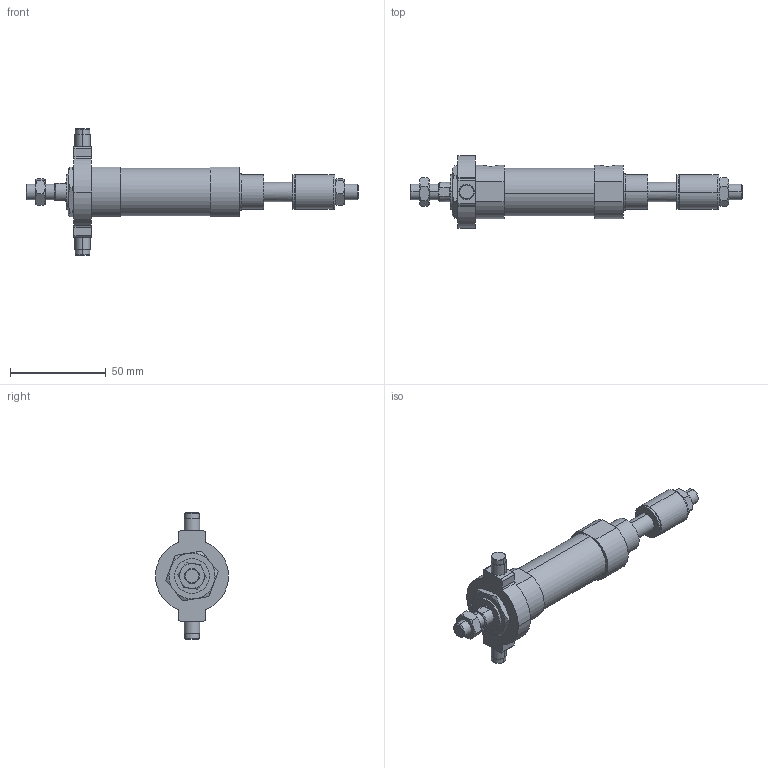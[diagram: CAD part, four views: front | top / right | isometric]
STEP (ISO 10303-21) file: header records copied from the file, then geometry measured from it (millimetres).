
FILE_DESCRIPTION (( 'STEP AP203' ), '1' );
FILE_NAME ('JGA7-20-15-T.STEP', '2016-04-20T01:21:06', ( '' ), ( '' ), 'SwSTEP 2.0', 'SolidWorks 2014', '' );
FILE_SCHEMA (( 'CONFIG_CONTROL_DESIGN' ));
Length unit declared in the file: millimetre
Products named in the file (8): JGA7-20-15-T; JGA7-20A-15; J#2-20-T; JGA7-20-Turn; 20-15; M18x1.5-3mm; M8x1.25-5mm; JGLH2-20B
Assembly tree (8 placements, depth 2):
  JGA7-20-15-T
    JGLH2-20B
    20-15
    JGA7-20A-15
    M8x1.25-5mm  x2
    M18x1.5-3mm
    J#2-20-T
    JGA7-20-Turn
Bounding box: 173 x 38 x 66 mm (x, y, z)
Volume: 66346 mm3; surface area: 22349.4 mm2
Topology: 8 solids, 8 shells, 184 faces, 401 edges, 248 vertices
Faces by surface type: plane 67, cylinder 63, torus 38, cone 16
Entity records: 5737 total; most frequent: CARTESIAN_POINT 1270, DIRECTION 805, ORIENTED_EDGE 706, EDGE_CURVE 353, AXIS2_PLACEMENT_3D 339, VERTEX_POINT 220, EDGE_LOOP 185, CIRCLE 166
